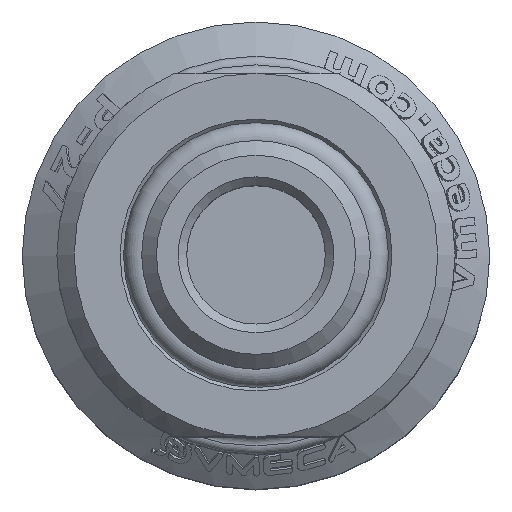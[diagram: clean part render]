
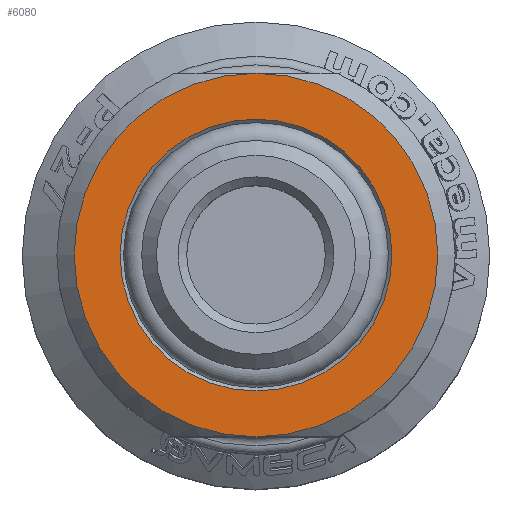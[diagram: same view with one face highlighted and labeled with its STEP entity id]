
A CAD part, top view. The second image highlights one B-rep face of the part: STEP entity #6080.
In plain terms, the highlighted planar face has unit normal (0, 0, 1).
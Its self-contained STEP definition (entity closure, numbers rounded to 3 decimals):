
#6080 = ADVANCED_FACE( '', ( #8816, #8817 ), #8818, .F. );
#8816 = FACE_OUTER_BOUND( '', #10585, .T. );
#8817 = FACE_BOUND( '', #10586, .T. );
#8818 = PLANE( '', #10587 );
#10585 = EDGE_LOOP( '', ( #13553, #13554 ) );
#10586 = EDGE_LOOP( '', ( #13555 ) );
#10587 = AXIS2_PLACEMENT_3D( '', #13556, #13557, #13558 );
#13553 = ORIENTED_EDGE( '', *, *, #19692, .F. );
#13554 = ORIENTED_EDGE( '', *, *, #19701, .F. );
#13555 = ORIENTED_EDGE( '', *, *, #19704, .T. );
#13556 = CARTESIAN_POINT( '', ( -7.85, 0., 1.874 ) );
#13557 = DIRECTION( '', ( 0., 0., -1. ) );
#13558 = DIRECTION( '', ( -1., 0., 0. ) );
#19692 = EDGE_CURVE( '', #20929, #20925, #20931, .T. );
#19701 = EDGE_CURVE( '', #20925, #20929, #20947, .T. );
#19704 = EDGE_CURVE( '', #20951, #20951, #20952, .T. );
#20925 = VERTEX_POINT( '', #22938 );
#20929 = VERTEX_POINT( '', #22949 );
#20931 = CIRCLE( '', #22958, 10.5 );
#20947 = CIRCLE( '', #22988, 10.5 );
#20951 = VERTEX_POINT( '', #22997 );
#20952 = CIRCLE( '', #22998, 7.85 );
#22938 = CARTESIAN_POINT( '', ( 0., 10.5, 1.874 ) );
#22949 = CARTESIAN_POINT( '', ( 0., -10.5, 1.874 ) );
#22958 = AXIS2_PLACEMENT_3D( '', #24654, #24655, #24656 );
#22988 = AXIS2_PLACEMENT_3D( '', #24666, #24667, #24668 );
#22997 = CARTESIAN_POINT( '', ( -7.85, 0., 1.874 ) );
#22998 = AXIS2_PLACEMENT_3D( '', #24672, #24673, #24674 );
#24654 = CARTESIAN_POINT( '', ( 0., 0., 1.874 ) );
#24655 = DIRECTION( '', ( 0., 0., -1. ) );
#24656 = DIRECTION( '', ( -1., 0., 0. ) );
#24666 = CARTESIAN_POINT( '', ( 0., 0., 1.874 ) );
#24667 = DIRECTION( '', ( 0., 0., -1. ) );
#24668 = DIRECTION( '', ( -1., 0., 0. ) );
#24672 = CARTESIAN_POINT( '', ( 0., 0., 1.874 ) );
#24673 = DIRECTION( '', ( 0., 0., -1. ) );
#24674 = DIRECTION( '', ( -1., 0., 0. ) );
